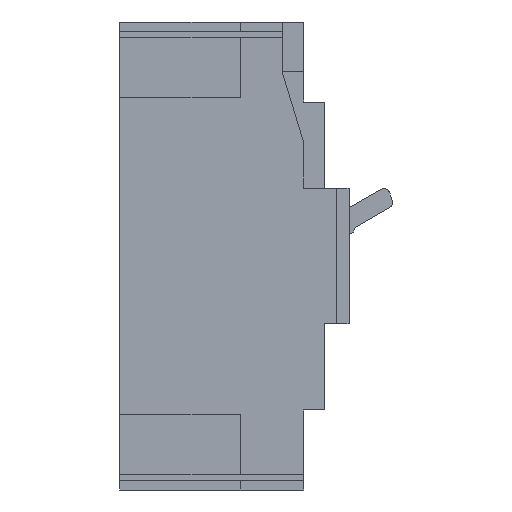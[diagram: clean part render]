
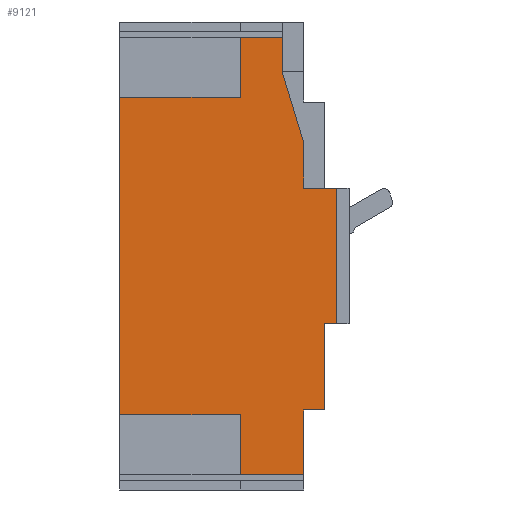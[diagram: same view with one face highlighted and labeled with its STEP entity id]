
A CAD part, left-side view. The second image highlights one B-rep face of the part: STEP entity #9121.
In plain terms, the highlighted planar face has unit normal (-1, 0, 0).
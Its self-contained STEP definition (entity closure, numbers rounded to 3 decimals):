
#2=DIRECTION('',(0.,-1.,0.));
#3=VECTOR('',#2,40.);
#4=CARTESIAN_POINT('',(-45.,30.5,-52.5));
#5=LINE('',#4,#3);
#6=DIRECTION('',(0.,0.,1.));
#7=VECTOR('',#6,105.);
#8=CARTESIAN_POINT('',(-45.,30.5,-52.5));
#9=LINE('',#8,#7);
#10=DIRECTION('',(0.,-1.,0.));
#11=VECTOR('',#10,40.);
#12=CARTESIAN_POINT('',(-45.,30.5,52.5));
#13=LINE('',#12,#11);
#14=DIRECTION('',(0.,0.,-1.));
#15=VECTOR('',#14,20.);
#16=CARTESIAN_POINT('',(-45.,-9.5,72.5));
#17=LINE('',#16,#15);
#18=DIRECTION('',(0.,-1.,0.));
#19=VECTOR('',#18,14.);
#20=CARTESIAN_POINT('',(-45.,-9.5,72.5));
#21=LINE('',#20,#19);
#22=DIRECTION('',(0.,0.,-1.));
#23=VECTOR('',#22,12.);
#24=CARTESIAN_POINT('',(-45.,-23.5,72.5));
#25=LINE('',#24,#23);
#26=DIRECTION('',(0.,0.291,0.957));
#27=VECTOR('',#26,24.042);
#28=CARTESIAN_POINT('',(-45.,-30.5,37.5));
#29=LINE('',#28,#27);
#30=DIRECTION('',(0.,0.,1.));
#31=VECTOR('',#30,15.);
#32=CARTESIAN_POINT('',(-45.,-30.5,22.5));
#33=LINE('',#32,#31);
#34=DIRECTION('',(0.,0.,-1.));
#35=VECTOR('',#34,45.);
#36=CARTESIAN_POINT('',(-45.,-41.5,22.5));
#37=LINE('',#36,#35);
#38=DIRECTION('',(0.,1.,0.));
#39=VECTOR('',#38,4.);
#40=CARTESIAN_POINT('',(-45.,-41.5,-22.5));
#41=LINE('',#40,#39);
#42=DIRECTION('',(0.,0.,-1.));
#43=VECTOR('',#42,28.5);
#44=CARTESIAN_POINT('',(-45.,-37.5,-22.5));
#45=LINE('',#44,#43);
#46=DIRECTION('',(0.,1.,0.));
#47=VECTOR('',#46,7.);
#48=CARTESIAN_POINT('',(-45.,-37.5,-51.));
#49=LINE('',#48,#47);
#50=DIRECTION('',(0.,0.,-1.));
#51=VECTOR('',#50,21.5);
#52=CARTESIAN_POINT('',(-45.,-30.5,-51.));
#53=LINE('',#52,#51);
#54=DIRECTION('',(0.,-1.,0.));
#55=VECTOR('',#54,21.);
#56=CARTESIAN_POINT('',(-45.,-9.5,-72.5));
#57=LINE('',#56,#55);
#58=DIRECTION('',(0.,0.,1.));
#59=VECTOR('',#58,20.);
#60=CARTESIAN_POINT('',(-45.,-9.5,-72.5));
#61=LINE('',#60,#59);
#707=DIRECTION('',(0.,1.,0.));
#708=VECTOR('',#707,11.);
#709=CARTESIAN_POINT('',(-45.,-41.5,22.5));
#710=LINE('',#709,#708);
#6838=CARTESIAN_POINT('',(-45.,-37.5,-22.5));
#6839=CARTESIAN_POINT('',(-45.,-37.5,-51.));
#6840=VERTEX_POINT('',#6838);
#6841=VERTEX_POINT('',#6839);
#6842=CARTESIAN_POINT('',(-45.,-30.5,-51.));
#6843=VERTEX_POINT('',#6842);
#7928=CARTESIAN_POINT('',(-45.,-30.5,-72.5));
#7929=VERTEX_POINT('',#7928);
#7970=CARTESIAN_POINT('',(-45.,-41.5,22.5));
#7971=CARTESIAN_POINT('',(-45.,-41.5,-22.5));
#7972=VERTEX_POINT('',#7970);
#7973=VERTEX_POINT('',#7971);
#8282=CARTESIAN_POINT('',(-45.,-30.5,22.5));
#8283=VERTEX_POINT('',#8282);
#8284=CARTESIAN_POINT('',(-45.,-30.5,37.5));
#8285=VERTEX_POINT('',#8284);
#8286=CARTESIAN_POINT('',(-45.,-23.5,60.5));
#8287=VERTEX_POINT('',#8286);
#8292=CARTESIAN_POINT('',(-45.,-23.5,72.5));
#8293=VERTEX_POINT('',#8292);
#8822=CARTESIAN_POINT('',(-45.,-9.5,-52.5));
#8823=VERTEX_POINT('',#8822);
#8824=CARTESIAN_POINT('',(-45.,-9.5,52.5));
#8825=VERTEX_POINT('',#8824);
#8826=CARTESIAN_POINT('',(-45.,30.5,-52.5));
#8827=VERTEX_POINT('',#8826);
#8832=CARTESIAN_POINT('',(-45.,-9.5,-72.5));
#8833=VERTEX_POINT('',#8832);
#8838=CARTESIAN_POINT('',(-45.,-9.5,72.5));
#8839=VERTEX_POINT('',#8838);
#8840=CARTESIAN_POINT('',(-45.,30.5,52.5));
#8841=VERTEX_POINT('',#8840);
#9082=CARTESIAN_POINT('',(-45.,0.,0.));
#9083=DIRECTION('',(1.,0.,0.));
#9084=DIRECTION('',(0.,-1.,0.));
#9085=AXIS2_PLACEMENT_3D('',#9082,#9083,#9084);
#9086=PLANE('',#9085);
#9088=ORIENTED_EDGE('',*,*,#9087,.F.);
#9090=ORIENTED_EDGE('',*,*,#9089,.T.);
#9092=ORIENTED_EDGE('',*,*,#9091,.T.);
#9094=ORIENTED_EDGE('',*,*,#9093,.F.);
#9096=ORIENTED_EDGE('',*,*,#9095,.T.);
#9098=ORIENTED_EDGE('',*,*,#9097,.T.);
#9100=ORIENTED_EDGE('',*,*,#9099,.F.);
#9102=ORIENTED_EDGE('',*,*,#9101,.F.);
#9104=ORIENTED_EDGE('',*,*,#9103,.F.);
#9106=ORIENTED_EDGE('',*,*,#9105,.T.);
#9108=ORIENTED_EDGE('',*,*,#9107,.T.);
#9110=ORIENTED_EDGE('',*,*,#9109,.T.);
#9112=ORIENTED_EDGE('',*,*,#9111,.T.);
#9114=ORIENTED_EDGE('',*,*,#9113,.T.);
#9116=ORIENTED_EDGE('',*,*,#9115,.F.);
#9118=ORIENTED_EDGE('',*,*,#9117,.T.);
#9119=EDGE_LOOP('',(#9088,#9090,#9092,#9094,#9096,#9098,#9100,#9102,#9104,#9106,
#9108,#9110,#9112,#9114,#9116,#9118));
#9120=FACE_OUTER_BOUND('',#9119,.F.);
#9087=EDGE_CURVE('',#8827,#8823,#5,.T.);
#9089=EDGE_CURVE('',#8827,#8841,#9,.T.);
#9091=EDGE_CURVE('',#8841,#8825,#13,.T.);
#9093=EDGE_CURVE('',#8839,#8825,#17,.T.);
#9095=EDGE_CURVE('',#8839,#8293,#21,.T.);
#9097=EDGE_CURVE('',#8293,#8287,#25,.T.);
#9099=EDGE_CURVE('',#8285,#8287,#29,.T.);
#9101=EDGE_CURVE('',#8283,#8285,#33,.T.);
#9103=EDGE_CURVE('',#7972,#8283,#710,.T.);
#9105=EDGE_CURVE('',#7972,#7973,#37,.T.);
#9107=EDGE_CURVE('',#7973,#6840,#41,.T.);
#9109=EDGE_CURVE('',#6840,#6841,#45,.T.);
#9111=EDGE_CURVE('',#6841,#6843,#49,.T.);
#9113=EDGE_CURVE('',#6843,#7929,#53,.T.);
#9115=EDGE_CURVE('',#8833,#7929,#57,.T.);
#9117=EDGE_CURVE('',#8833,#8823,#61,.T.);
#9121=ADVANCED_FACE('',(#9120),#9086,.F.);
